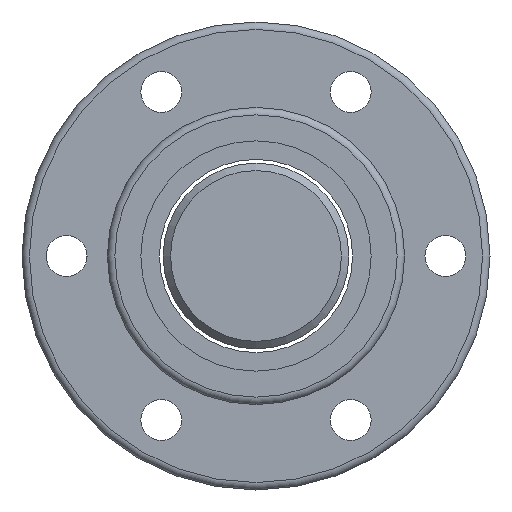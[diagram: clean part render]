
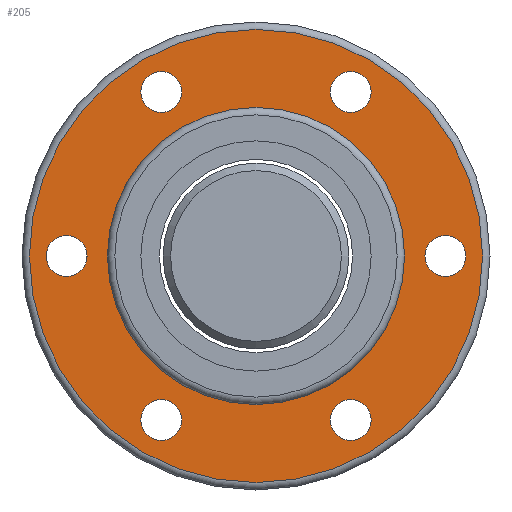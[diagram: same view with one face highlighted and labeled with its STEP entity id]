
A CAD part, left-side view. The second image highlights one B-rep face of the part: STEP entity #205.
In plain terms, the highlighted planar face has unit normal (-1, 0, 0).
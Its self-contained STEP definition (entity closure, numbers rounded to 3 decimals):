
#145=PLANE('',#828);
#168=FACE_OUTER_BOUND('',#398,.T.);
#205=ADVANCED_FACE('',(#280,#281,#282,#283,#284,#285,#286,#168),#145,.F.);
#280=FACE_BOUND('',#391,.T.);
#281=FACE_BOUND('',#392,.T.);
#282=FACE_BOUND('',#393,.T.);
#283=FACE_BOUND('',#394,.T.);
#284=FACE_BOUND('',#395,.T.);
#285=FACE_BOUND('',#396,.T.);
#286=FACE_BOUND('',#397,.T.);
#391=EDGE_LOOP('',(#513));
#392=EDGE_LOOP('',(#514));
#393=EDGE_LOOP('',(#515));
#394=EDGE_LOOP('',(#516));
#395=EDGE_LOOP('',(#517));
#396=EDGE_LOOP('',(#518));
#397=EDGE_LOOP('',(#519));
#398=EDGE_LOOP('',(#520));
#513=ORIENTED_EDGE('',*,*,#672,.T.);
#514=ORIENTED_EDGE('',*,*,#673,.T.);
#515=ORIENTED_EDGE('',*,*,#674,.T.);
#516=ORIENTED_EDGE('',*,*,#675,.T.);
#517=ORIENTED_EDGE('',*,*,#676,.T.);
#518=ORIENTED_EDGE('',*,*,#677,.T.);
#519=ORIENTED_EDGE('',*,*,#671,.F.);
#520=ORIENTED_EDGE('',*,*,#678,.T.);
#610=VERTEX_POINT('',#1199);
#611=VERTEX_POINT('',#1202);
#612=VERTEX_POINT('',#1204);
#613=VERTEX_POINT('',#1206);
#614=VERTEX_POINT('',#1208);
#615=VERTEX_POINT('',#1210);
#616=VERTEX_POINT('',#1212);
#617=VERTEX_POINT('',#1214);
#671=EDGE_CURVE('',#610,#610,#732,.T.);
#672=EDGE_CURVE('',#611,#611,#733,.T.);
#673=EDGE_CURVE('',#612,#612,#734,.T.);
#674=EDGE_CURVE('',#613,#613,#735,.T.);
#675=EDGE_CURVE('',#614,#614,#736,.T.);
#676=EDGE_CURVE('',#615,#615,#737,.T.);
#677=EDGE_CURVE('',#616,#616,#738,.T.);
#678=EDGE_CURVE('',#617,#617,#739,.T.);
#732=CIRCLE('',#819,20.);
#733=CIRCLE('',#821,2.75);
#734=CIRCLE('',#822,2.75);
#735=CIRCLE('',#823,2.75);
#736=CIRCLE('',#824,2.75);
#737=CIRCLE('',#825,2.75);
#738=CIRCLE('',#826,2.75);
#739=CIRCLE('',#827,30.5);
#819=AXIS2_PLACEMENT_3D('',#1198,#988,#989);
#821=AXIS2_PLACEMENT_3D('',#1201,#992,#993);
#822=AXIS2_PLACEMENT_3D('',#1203,#994,#995);
#823=AXIS2_PLACEMENT_3D('',#1205,#996,#997);
#824=AXIS2_PLACEMENT_3D('',#1207,#998,#999);
#825=AXIS2_PLACEMENT_3D('',#1209,#1000,#1001);
#826=AXIS2_PLACEMENT_3D('',#1211,#1002,#1003);
#827=AXIS2_PLACEMENT_3D('',#1213,#1004,#1005);
#828=AXIS2_PLACEMENT_3D('',#1215,#1006,#1007);
#988=DIRECTION('',(-1.,0.,0.));
#989=DIRECTION('',(0.,-1.,0.));
#992=DIRECTION('',(1.,0.,0.));
#993=DIRECTION('',(0.,1.,0.));
#994=DIRECTION('',(1.,0.,0.));
#995=DIRECTION('',(0.,1.,0.));
#996=DIRECTION('',(1.,0.,0.));
#997=DIRECTION('',(0.,1.,0.));
#998=DIRECTION('',(1.,0.,0.));
#999=DIRECTION('',(0.,1.,0.));
#1000=DIRECTION('',(1.,0.,0.));
#1001=DIRECTION('',(0.,1.,0.));
#1002=DIRECTION('',(1.,0.,0.));
#1003=DIRECTION('',(0.,1.,0.));
#1004=DIRECTION('',(-1.,0.,0.));
#1005=DIRECTION('',(0.,-1.,0.));
#1006=DIRECTION('',(1.,0.,0.));
#1007=DIRECTION('',(0.,1.,0.));
#1198=CARTESIAN_POINT('',(-26.,0.,0.));
#1199=CARTESIAN_POINT('',(-26.,-20.,0.));
#1201=CARTESIAN_POINT('',(-26.,12.75,-22.084));
#1202=CARTESIAN_POINT('',(-26.,15.5,-22.084));
#1203=CARTESIAN_POINT('',(-26.,-12.75,-22.084));
#1204=CARTESIAN_POINT('',(-26.,-10.,-22.084));
#1205=CARTESIAN_POINT('',(-26.,-25.5,0.));
#1206=CARTESIAN_POINT('',(-26.,-22.75,0.));
#1207=CARTESIAN_POINT('',(-26.,-12.75,22.084));
#1208=CARTESIAN_POINT('',(-26.,-10.,22.084));
#1209=CARTESIAN_POINT('',(-26.,12.75,22.084));
#1210=CARTESIAN_POINT('',(-26.,15.5,22.084));
#1211=CARTESIAN_POINT('',(-26.,25.5,0.));
#1212=CARTESIAN_POINT('',(-26.,28.25,0.));
#1213=CARTESIAN_POINT('',(-26.,0.,0.));
#1214=CARTESIAN_POINT('',(-26.,-30.5,0.));
#1215=CARTESIAN_POINT('',(-26.,25.25,0.));
